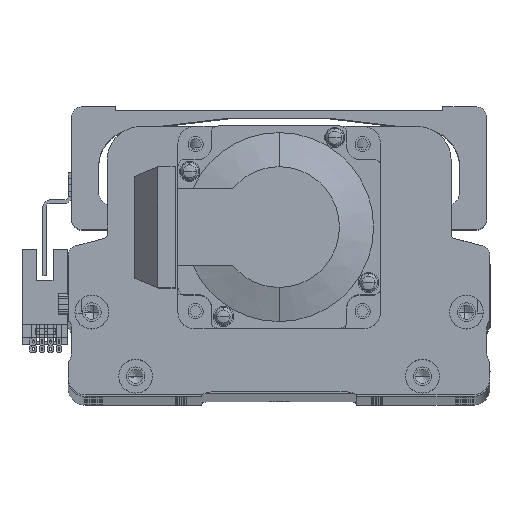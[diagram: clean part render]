
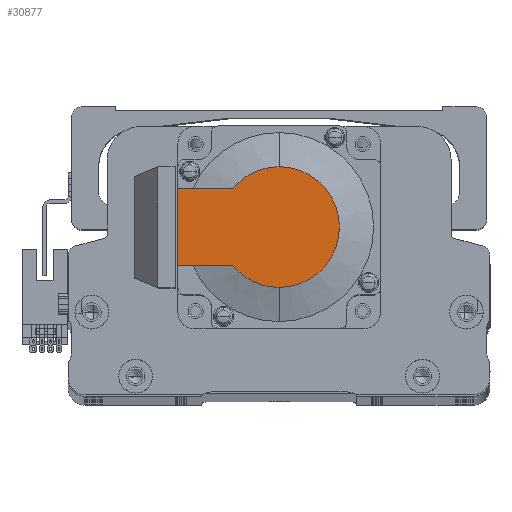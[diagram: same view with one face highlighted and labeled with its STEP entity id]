
A CAD part, top view. The second image highlights one B-rep face of the part: STEP entity #30877.
In plain terms, the highlighted planar face has unit normal (0, 0, 1) as drawn and (-1, 0, 0) by its records, which use the part's own axes.
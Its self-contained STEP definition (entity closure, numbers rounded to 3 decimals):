
#1217 = FACE_OUTER_BOUND ( 'NONE', #40223, .T. ) ;
#3749 = VERTEX_POINT ( 'NONE', #54688 ) ;
#4055 = ORIENTED_EDGE ( 'NONE', *, *, #21313, .F. ) ;
#5091 = ORIENTED_EDGE ( 'NONE', *, *, #21835, .T. ) ;
#5262 = EDGE_CURVE ( 'NONE', #35158, #3749, #20155, .T. ) ;
#5265 = CARTESIAN_POINT ( 'NONE',  ( -118.5, 13.735, -11.45 ) ) ;
#11471 = CARTESIAN_POINT ( 'NONE',  ( -118.5, 0., 0. ) ) ;
#12137 = CARTESIAN_POINT ( 'NONE',  ( -118.5, 30., 11.45 ) ) ;
#14425 = EDGE_CURVE ( 'NONE', #44723, #3749, #38971, .T. ) ;
#14783 = CARTESIAN_POINT ( 'NONE',  ( -118.5, 0., -17.881 ) ) ;
#15978 = DIRECTION ( 'NONE',  ( 0., 0., -1. ) ) ;
#16413 = DIRECTION ( 'NONE',  ( -1., 0., 0. ) ) ;
#18207 = ORIENTED_EDGE ( 'NONE', *, *, #33962, .T. ) ;
#18528 = CARTESIAN_POINT ( 'NONE',  ( -118.5, -8.941, -11.45 ) ) ;
#19282 = VECTOR ( 'NONE', #47057, 1000. ) ;
#19507 = DIRECTION ( 'NONE',  ( -1., 0., 0. ) ) ;
#20155 = CIRCLE ( 'NONE', #26577, 17.881 ) ;
#20351 = CARTESIAN_POINT ( 'NONE',  ( -118.5, 30., 25. ) ) ;
#20971 = AXIS2_PLACEMENT_3D ( 'NONE', #46156, #19507, #50648 ) ;
#21313 = EDGE_CURVE ( 'NONE', #43235, #44723, #31128, .T. ) ;
#21835 = EDGE_CURVE ( 'NONE', #43504, #35158, #34522, .T. ) ;
#23201 = VERTEX_POINT ( 'NONE', #5265 ) ;
#23605 = CIRCLE ( 'NONE', #42849, 17.881 ) ;
#24667 = CARTESIAN_POINT ( 'NONE',  ( -118.5, 0., 0. ) ) ;
#26577 = AXIS2_PLACEMENT_3D ( 'NONE', #11471, #42647, #15978 ) ;
#27866 = CARTESIAN_POINT ( 'NONE',  ( -118.5, 0., 17.881 ) ) ;
#27903 = CARTESIAN_POINT ( 'NONE',  ( -118.5, 0., 11.45 ) ) ;
#29104 = DIRECTION ( 'NONE',  ( 0., 0., -1. ) ) ;
#30877 = ADVANCED_FACE ( 'NONE', ( #1217 ), #56159, .T. ) ;
#31128 = LINE ( 'NONE', #20351, #19282 ) ;
#33962 = EDGE_CURVE ( 'NONE', #43235, #23201, #47992, .T. ) ;
#34522 = CIRCLE ( 'NONE', #20971, 17.881 ) ;
#34697 = VECTOR ( 'NONE', #54178, 1000. ) ;
#35158 = VERTEX_POINT ( 'NONE', #27866 ) ;
#35611 = ORIENTED_EDGE ( 'NONE', *, *, #14425, .F. ) ;
#38531 = ORIENTED_EDGE ( 'NONE', *, *, #5262, .T. ) ;
#38971 = LINE ( 'NONE', #27903, #43223 ) ;
#39945 = CARTESIAN_POINT ( 'NONE',  ( -118.5, 30., -11.45 ) ) ;
#40223 = EDGE_LOOP ( 'NONE', ( #18207, #56263, #5091, #38531, #35611, #4055 ) ) ;
#42647 = DIRECTION ( 'NONE',  ( -1., 0., 0. ) ) ;
#42849 = AXIS2_PLACEMENT_3D ( 'NONE', #24667, #55814, #29104 ) ;
#43093 = CARTESIAN_POINT ( 'NONE',  ( -118.5, -8.941, 0. ) ) ;
#43223 = VECTOR ( 'NONE', #54624, 1000. ) ;
#43235 = VERTEX_POINT ( 'NONE', #39945 ) ;
#43504 = VERTEX_POINT ( 'NONE', #14783 ) ;
#44723 = VERTEX_POINT ( 'NONE', #12137 ) ;
#46156 = CARTESIAN_POINT ( 'NONE',  ( -118.5, 0., 0. ) ) ;
#47057 = DIRECTION ( 'NONE',  ( 0., 0., 1. ) ) ;
#47600 = DIRECTION ( 'NONE',  ( 0., 0., 1. ) ) ;
#47992 = LINE ( 'NONE', #18528, #34697 ) ;
#50648 = DIRECTION ( 'NONE',  ( 0., 0., -1. ) ) ;
#54178 = DIRECTION ( 'NONE',  ( 0., -1., 0. ) ) ;
#54624 = DIRECTION ( 'NONE',  ( 0., -1., 0. ) ) ;
#54688 = CARTESIAN_POINT ( 'NONE',  ( -118.5, 13.735, 11.45 ) ) ;
#55727 = EDGE_CURVE ( 'NONE', #23201, #43504, #23605, .T. ) ;
#55814 = DIRECTION ( 'NONE',  ( -1., 0., 0. ) ) ;
#56028 = AXIS2_PLACEMENT_3D ( 'NONE', #43093, #16413, #47600 ) ;
#56159 = PLANE ( 'NONE',  #56028 ) ;
#56263 = ORIENTED_EDGE ( 'NONE', *, *, #55727, .T. ) ;
